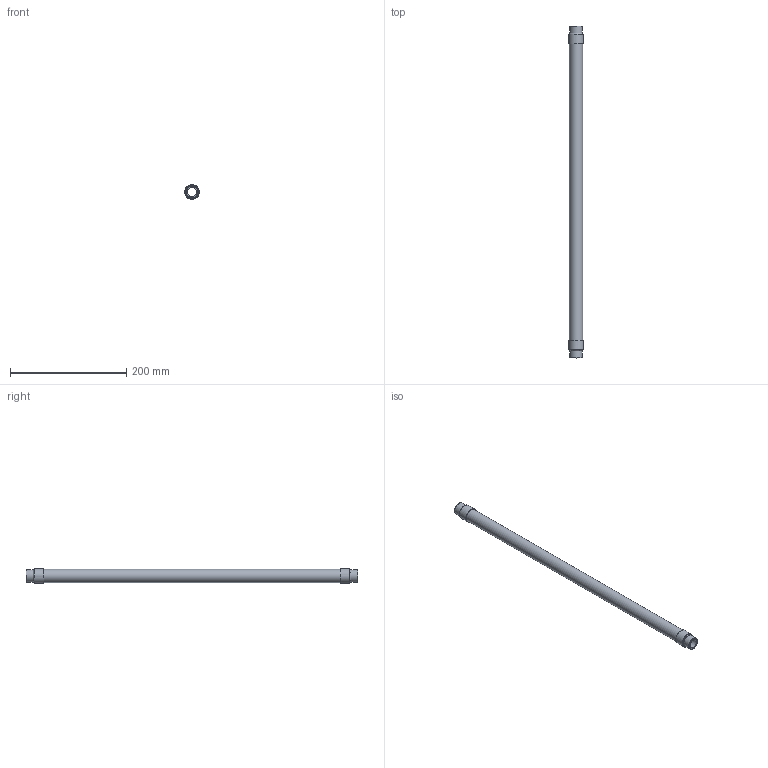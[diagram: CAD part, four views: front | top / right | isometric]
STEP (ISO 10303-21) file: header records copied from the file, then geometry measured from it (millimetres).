
FILE_DESCRIPTION(/* description */ (''),/* implementation_level */ '2;1');
FILE_NAME(/* name */ 'C:\001_Work\Designs\CSAWN\CSAWN-0.5x22.5.stp',/* time_stamp */ '2016-06-04T16:10:06-04:00',/* author */ ('rramoutar'),/* organization */ ('Mason Industries Inc.'),/* preprocessor_version */ 'ST-DEVELOPER v15.6',/* originating_system */ 'Autodesk Inventor 2015',/* authorisation */ '');
FILE_SCHEMA (('CONFIG_CONTROL_DESIGN'));
Length unit declared in the file: inch
Products named in the file (1): CSAWN-0.5x22.5
Bounding box: 25.09 x 571.5 x 25.09 mm (x, y, z)
Volume: 19326.6 mm3; surface area: 85926.3 mm2
Topology: 5 solids, 5 shells, 24 faces, 44 edges, 30 vertices
Faces by surface type: cylinder 10, plane 10, cone 4
Full cylindrical faces by diameter (mm): 15.799 x2, 21.336 x2, 22.098 x1, 22.708 x3, 25.095 x2
Entity records: 611 total; most frequent: DIRECTION 106, CARTESIAN_POINT 81, ORIENTED_EDGE 56, AXIS2_PLACEMENT_3D 53, EDGE_LOOP 48, STYLED_ITEM 29, CIRCLE 28, VERTEX_POINT 28
